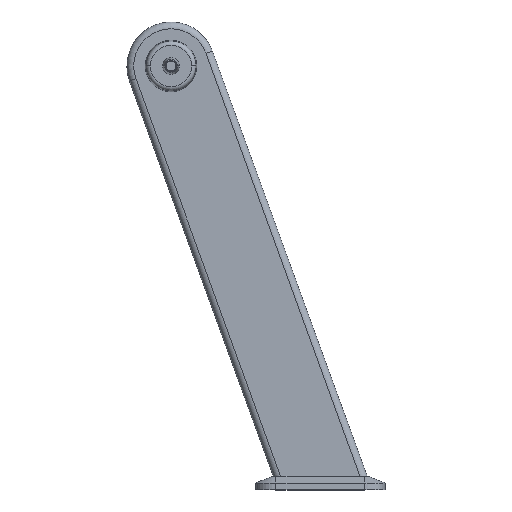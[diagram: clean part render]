
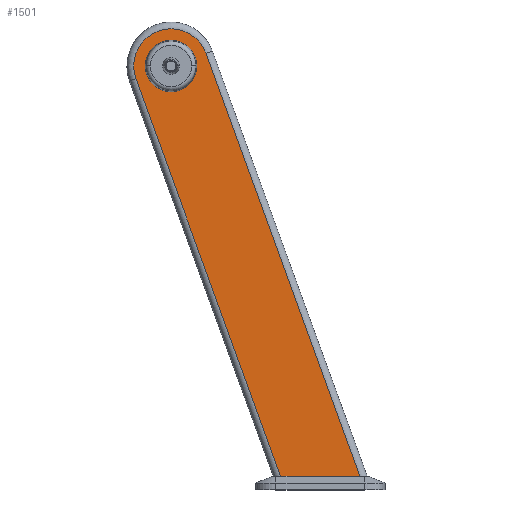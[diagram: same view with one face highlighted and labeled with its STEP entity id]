
A CAD part, top view. The second image highlights one B-rep face of the part: STEP entity #1501.
In plain terms, the highlighted planar face has unit normal (0, 0, 1).
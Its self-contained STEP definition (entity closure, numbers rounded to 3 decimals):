
#43 = EDGE_CURVE ( 'NONE', #1788, #1751, #3002, .T. ) ;
#47 = CIRCLE ( 'NONE', #2604, 38. ) ;
#83 = CARTESIAN_POINT ( 'NONE',  ( 278.732, -605., 31.25 ) ) ;
#158 = CIRCLE ( 'NONE', #2237, 55. ) ;
#200 = DIRECTION ( 'NONE',  ( 1., 0., 0. ) ) ;
#249 = DIRECTION ( 'NONE',  ( 1., 0., 0. ) ) ;
#312 = CARTESIAN_POINT ( 'NONE',  ( 0., 0., 31.25 ) ) ;
#320 = VECTOR ( 'NONE', #2088, 1000. ) ;
#484 = VERTEX_POINT ( 'NONE', #700 ) ;
#489 = VECTOR ( 'NONE', #2392, 1000. ) ;
#526 = EDGE_LOOP ( 'NONE', ( #2257, #678 ) ) ;
#529 = CARTESIAN_POINT ( 'NONE',  ( -51.683, -18.811, 31.25 ) ) ;
#560 = DIRECTION ( 'NONE',  ( 1., 0., 0. ) ) ;
#638 = CARTESIAN_POINT ( 'NONE',  ( 167.707, -621.58, 31.25 ) ) ;
#644 = PLANE ( 'NONE',  #1089 ) ;
#678 = ORIENTED_EDGE ( 'NONE', *, *, #2989, .F. ) ;
#700 = CARTESIAN_POINT ( 'NONE',  ( 51.683, 18.811, 31.25 ) ) ;
#817 = CARTESIAN_POINT ( 'NONE',  ( -38., 0., 31.25 ) ) ;
#825 = DIRECTION ( 'NONE',  ( -0.342, 0.94, 0. ) ) ;
#894 = DIRECTION ( 'NONE',  ( 1., 0., 0. ) ) ;
#903 = ORIENTED_EDGE ( 'NONE', *, *, #1319, .T. ) ;
#1086 = EDGE_CURVE ( 'NONE', #484, #1788, #158, .T. ) ;
#1089 = AXIS2_PLACEMENT_3D ( 'NONE', #1636, #2399, #894 ) ;
#1159 = FACE_OUTER_BOUND ( 'NONE', #2118, .T. ) ;
#1172 = ORIENTED_EDGE ( 'NONE', *, *, #1352, .T. ) ;
#1245 = CARTESIAN_POINT ( 'NONE',  ( 38., 0., 31.25 ) ) ;
#1307 = VERTEX_POINT ( 'NONE', #83 ) ;
#1310 = ORIENTED_EDGE ( 'NONE', *, *, #1086, .T. ) ;
#1318 = CIRCLE ( 'NONE', #1566, 38. ) ;
#1319 = EDGE_CURVE ( 'NONE', #1307, #484, #2990, .T. ) ;
#1352 = EDGE_CURVE ( 'NONE', #1751, #1307, #1632, .T. ) ;
#1501 = ADVANCED_FACE ( 'NONE', ( #1159, #2652 ), #644, .T. ) ;
#1566 = AXIS2_PLACEMENT_3D ( 'NONE', #312, #2055, #560 ) ;
#1570 = CARTESIAN_POINT ( 'NONE',  ( 51.683, 18.811, 31.25 ) ) ;
#1632 = LINE ( 'NONE', #2330, #320 ) ;
#1636 = CARTESIAN_POINT ( 'NONE',  ( 0., 0., 31.25 ) ) ;
#1689 = DIRECTION ( 'NONE',  ( 0., 0., 1. ) ) ;
#1690 = EDGE_CURVE ( 'NONE', #2448, #3017, #47, .T. ) ;
#1738 = DIRECTION ( 'NONE',  ( 0., 0., 1. ) ) ;
#1751 = VERTEX_POINT ( 'NONE', #2509 ) ;
#1788 = VERTEX_POINT ( 'NONE', #529 ) ;
#2055 = DIRECTION ( 'NONE',  ( 0., 0., 1. ) ) ;
#2088 = DIRECTION ( 'NONE',  ( 1., 0., 0. ) ) ;
#2118 = EDGE_LOOP ( 'NONE', ( #903, #1310, #2808, #1172 ) ) ;
#2237 = AXIS2_PLACEMENT_3D ( 'NONE', #3212, #1689, #200 ) ;
#2257 = ORIENTED_EDGE ( 'NONE', *, *, #1690, .F. ) ;
#2315 = VECTOR ( 'NONE', #825, 1000. ) ;
#2330 = CARTESIAN_POINT ( 'NONE',  ( 0., -605., 31.25 ) ) ;
#2392 = DIRECTION ( 'NONE',  ( 0.342, -0.94, 0. ) ) ;
#2399 = DIRECTION ( 'NONE',  ( 0., 0., 1. ) ) ;
#2448 = VERTEX_POINT ( 'NONE', #1245 ) ;
#2509 = CARTESIAN_POINT ( 'NONE',  ( 161.672, -605., 31.25 ) ) ;
#2604 = AXIS2_PLACEMENT_3D ( 'NONE', #3259, #1738, #249 ) ;
#2652 = FACE_BOUND ( 'NONE', #526, .T. ) ;
#2808 = ORIENTED_EDGE ( 'NONE', *, *, #43, .T. ) ;
#2989 = EDGE_CURVE ( 'NONE', #3017, #2448, #1318, .T. ) ;
#2990 = LINE ( 'NONE', #1570, #2315 ) ;
#3002 = LINE ( 'NONE', #638, #489 ) ;
#3017 = VERTEX_POINT ( 'NONE', #817 ) ;
#3212 = CARTESIAN_POINT ( 'NONE',  ( 0., 0., 31.25 ) ) ;
#3259 = CARTESIAN_POINT ( 'NONE',  ( 0., 0., 31.25 ) ) ;
